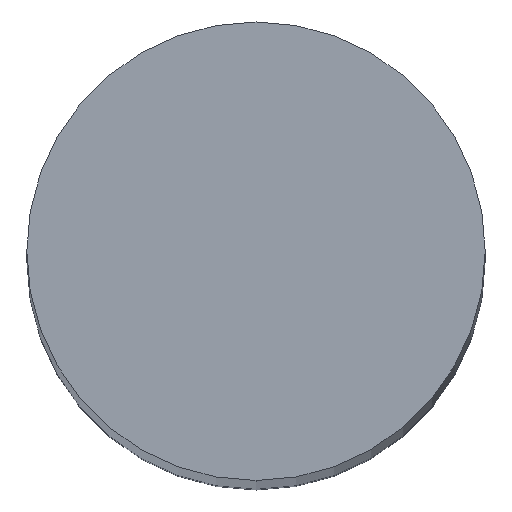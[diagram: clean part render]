
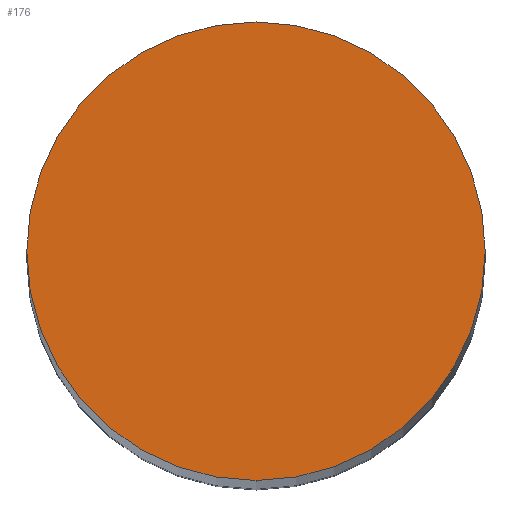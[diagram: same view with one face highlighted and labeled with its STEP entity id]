
A CAD part, top view. The second image highlights one B-rep face of the part: STEP entity #176.
In plain terms, the highlighted planar face has unit normal (0, 0, 1).
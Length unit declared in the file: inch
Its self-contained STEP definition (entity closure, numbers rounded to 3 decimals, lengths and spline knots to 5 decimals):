
#129=CARTESIAN_POINT('',(0.0,-0.0625,1.5));
#130=VERTEX_POINT('',#129);
#138=CARTESIAN_POINT('',(0.0,0.0625,1.5));
#139=VERTEX_POINT('',#138);
#146=CARTESIAN_POINT('',(0.0,0.0,1.5));
#147=DIRECTION('',(0.0,-0.0,-1.0));
#148=DIRECTION('',(0.0,1.0,-0.0));
#149=AXIS2_PLACEMENT_3D('',#146,#147,#148);
#150=CIRCLE('',#149,0.0625);
#151=EDGE_CURVE('no 1299',#139,#130,#150,.T.);
#161=CARTESIAN_POINT('',(0.0,0.0,1.5));
#162=DIRECTION('',(0.0,-0.0,-1.0));
#163=DIRECTION('',(0.0,1.0,-0.0));
#164=AXIS2_PLACEMENT_3D('',#161,#162,#163);
#165=CIRCLE('',#164,0.0625);
#166=EDGE_CURVE('no 1303',#130,#139,#165,.T.);
#167=ORIENTED_EDGE('',*,*,#166,.F.);
#168=ORIENTED_EDGE('',*,*,#151,.F.);
#169=EDGE_LOOP('',(#167,#168));
#170=FACE_OUTER_BOUND('',#169,.T.);
#171=CARTESIAN_POINT('',(0.0625,0.0,1.5));
#172=DIRECTION('',(0.0,0.0,1.0));
#173=DIRECTION('',(0.0,-1.0,0.0));
#174=AXIS2_PLACEMENT_3D('',#171,#172,#173);
#175=PLANE('',#174);
#176=ADVANCED_FACE('no 1392',(#170),#175,.T.);
